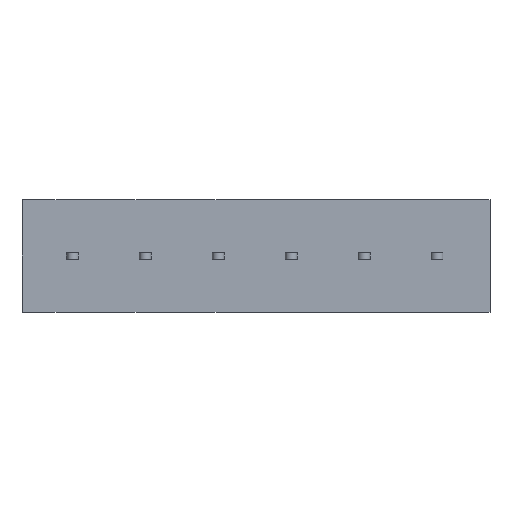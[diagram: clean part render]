
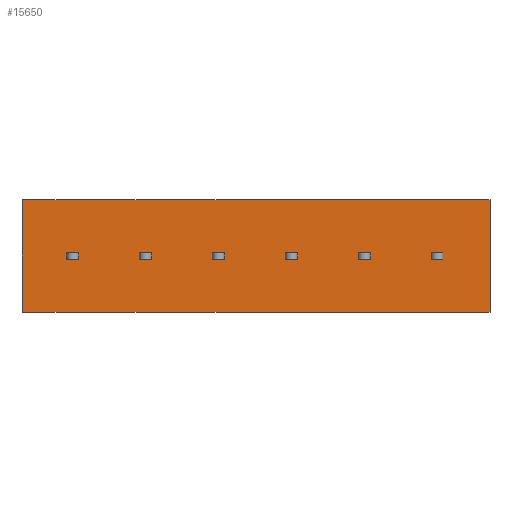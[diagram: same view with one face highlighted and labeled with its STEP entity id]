
A CAD part, front view. The second image highlights one B-rep face of the part: STEP entity #15650.
In plain terms, the highlighted planar face has unit normal (0, -1, 0).
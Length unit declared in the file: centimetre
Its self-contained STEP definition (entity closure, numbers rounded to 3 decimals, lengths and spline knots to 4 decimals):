
#720=VECTOR('',#16440,1.);
#723=VECTOR('',#16446,1.);
#737=VECTOR('',#16477,1.);
#740=VECTOR('',#16485,1.);
#1149=VECTOR('',#17036,1.);
#1256=VECTOR('',#17337,1.);
#1260=VECTOR('',#17342,1.);
#1271=VECTOR('',#17375,1.);
#1273=VECTOR('',#17378,1.);
#1391=VECTOR('',#17692,1.);
#1395=VECTOR('',#17697,1.);
#1406=VECTOR('',#17730,1.);
#1408=VECTOR('',#17733,1.);
#1526=VECTOR('',#18047,1.);
#1530=VECTOR('',#18052,1.);
#1541=VECTOR('',#18085,1.);
#1543=VECTOR('',#18088,1.);
#1661=VECTOR('',#18402,1.);
#1665=VECTOR('',#18407,1.);
#1676=VECTOR('',#18440,1.);
#1678=VECTOR('',#18443,1.);
#1796=VECTOR('',#18757,1.);
#1800=VECTOR('',#18762,1.);
#1811=VECTOR('',#18795,1.);
#1813=VECTOR('',#18798,1.);
#2314=VECTOR('',#19556,1.);
#2322=VECTOR('',#19573,1.);
#2323=VECTOR('',#19574,1.);
#2390=LINE('',#19856,#720);
#2393=LINE('',#19865,#723);
#2407=LINE('',#19902,#737);
#2410=LINE('',#19910,#740);
#2819=LINE('',#21424,#1149);
#2926=LINE('',#21812,#1256);
#2930=LINE('',#21821,#1260);
#2941=LINE('',#21856,#1271);
#2943=LINE('',#21860,#1273);
#3061=LINE('',#22261,#1391);
#3065=LINE('',#22270,#1395);
#3076=LINE('',#22305,#1406);
#3078=LINE('',#22309,#1408);
#3196=LINE('',#22710,#1526);
#3200=LINE('',#22719,#1530);
#3211=LINE('',#22754,#1541);
#3213=LINE('',#22758,#1543);
#3331=LINE('',#23159,#1661);
#3335=LINE('',#23168,#1665);
#3346=LINE('',#23203,#1676);
#3348=LINE('',#23207,#1678);
#3466=LINE('',#23608,#1796);
#3470=LINE('',#23617,#1800);
#3481=LINE('',#23652,#1811);
#3483=LINE('',#23656,#1813);
#3984=LINE('',#25409,#2314);
#3992=LINE('',#25434,#2322);
#3993=LINE('',#25435,#2323);
#4082=VERTEX_POINT('',#19857);
#4083=VERTEX_POINT('',#19858);
#4086=VERTEX_POINT('',#19866);
#4098=VERTEX_POINT('',#19903);
#4441=VERTEX_POINT('',#21425);
#4442=VERTEX_POINT('',#21426);
#4567=VERTEX_POINT('',#21813);
#4568=VERTEX_POINT('',#21814);
#4571=VERTEX_POINT('',#21822);
#4582=VERTEX_POINT('',#21857);
#4705=VERTEX_POINT('',#22262);
#4706=VERTEX_POINT('',#22263);
#4709=VERTEX_POINT('',#22271);
#4720=VERTEX_POINT('',#22306);
#4843=VERTEX_POINT('',#22711);
#4844=VERTEX_POINT('',#22712);
#4847=VERTEX_POINT('',#22720);
#4858=VERTEX_POINT('',#22755);
#4981=VERTEX_POINT('',#23160);
#4982=VERTEX_POINT('',#23161);
#4985=VERTEX_POINT('',#23169);
#4996=VERTEX_POINT('',#23204);
#5119=VERTEX_POINT('',#23609);
#5120=VERTEX_POINT('',#23610);
#5123=VERTEX_POINT('',#23618);
#5134=VERTEX_POINT('',#23653);
#5552=VERTEX_POINT('',#25410);
#5553=VERTEX_POINT('',#25411);
#6004=EDGE_CURVE('',#4082,#4083,#2390,.T.);
#6008=EDGE_CURVE('',#4083,#4086,#2393,.T.);
#6026=EDGE_CURVE('',#4086,#4098,#2407,.T.);
#6030=EDGE_CURVE('',#4098,#4082,#2410,.T.);
#6545=EDGE_CURVE('',#4441,#4442,#2819,.T.);
#6721=EDGE_CURVE('',#4567,#4568,#2926,.T.);
#6725=EDGE_CURVE('',#4571,#4567,#2930,.T.);
#6742=EDGE_CURVE('',#4582,#4571,#2941,.T.);
#6744=EDGE_CURVE('',#4568,#4582,#2943,.T.);
#6927=EDGE_CURVE('',#4705,#4706,#3061,.T.);
#6931=EDGE_CURVE('',#4709,#4705,#3065,.T.);
#6948=EDGE_CURVE('',#4720,#4709,#3076,.T.);
#6950=EDGE_CURVE('',#4706,#4720,#3078,.T.);
#7133=EDGE_CURVE('',#4843,#4844,#3196,.T.);
#7137=EDGE_CURVE('',#4847,#4843,#3200,.T.);
#7154=EDGE_CURVE('',#4858,#4847,#3211,.T.);
#7156=EDGE_CURVE('',#4844,#4858,#3213,.T.);
#7339=EDGE_CURVE('',#4981,#4982,#3331,.T.);
#7343=EDGE_CURVE('',#4985,#4981,#3335,.T.);
#7360=EDGE_CURVE('',#4996,#4985,#3346,.T.);
#7362=EDGE_CURVE('',#4982,#4996,#3348,.T.);
#7545=EDGE_CURVE('',#5119,#5120,#3466,.T.);
#7549=EDGE_CURVE('',#5123,#5119,#3470,.T.);
#7566=EDGE_CURVE('',#5134,#5123,#3481,.T.);
#7568=EDGE_CURVE('',#5120,#5134,#3483,.T.);
#8208=EDGE_CURVE('',#5552,#5553,#3984,.T.);
#8220=EDGE_CURVE('',#5553,#4441,#3992,.T.);
#8221=EDGE_CURVE('',#4442,#5552,#3993,.T.);
#12770=ORIENTED_EDGE('',*,*,#6026,.F.);
#12771=ORIENTED_EDGE('',*,*,#6008,.F.);
#12772=ORIENTED_EDGE('',*,*,#6004,.F.);
#12773=ORIENTED_EDGE('',*,*,#6030,.F.);
#12774=ORIENTED_EDGE('',*,*,#6725,.T.);
#12775=ORIENTED_EDGE('',*,*,#6721,.T.);
#12776=ORIENTED_EDGE('',*,*,#6744,.T.);
#12777=ORIENTED_EDGE('',*,*,#6742,.T.);
#12778=ORIENTED_EDGE('',*,*,#6931,.T.);
#12779=ORIENTED_EDGE('',*,*,#6927,.T.);
#12780=ORIENTED_EDGE('',*,*,#6950,.T.);
#12781=ORIENTED_EDGE('',*,*,#6948,.T.);
#12782=ORIENTED_EDGE('',*,*,#7137,.T.);
#12783=ORIENTED_EDGE('',*,*,#7133,.T.);
#12784=ORIENTED_EDGE('',*,*,#7156,.T.);
#12785=ORIENTED_EDGE('',*,*,#7154,.T.);
#12786=ORIENTED_EDGE('',*,*,#7343,.T.);
#12787=ORIENTED_EDGE('',*,*,#7339,.T.);
#12788=ORIENTED_EDGE('',*,*,#7362,.T.);
#12789=ORIENTED_EDGE('',*,*,#7360,.T.);
#12790=ORIENTED_EDGE('',*,*,#7549,.T.);
#12791=ORIENTED_EDGE('',*,*,#7545,.T.);
#12792=ORIENTED_EDGE('',*,*,#7568,.T.);
#12793=ORIENTED_EDGE('',*,*,#7566,.T.);
#12794=ORIENTED_EDGE('',*,*,#8208,.T.);
#12795=ORIENTED_EDGE('',*,*,#8220,.T.);
#12796=ORIENTED_EDGE('',*,*,#6545,.T.);
#12797=ORIENTED_EDGE('',*,*,#8221,.T.);
#13834=EDGE_LOOP('',(#12770,#12771,#12772,#12773));
#13835=EDGE_LOOP('',(#12774,#12775,#12776,#12777));
#13836=EDGE_LOOP('',(#12778,#12779,#12780,#12781));
#13837=EDGE_LOOP('',(#12782,#12783,#12784,#12785));
#13838=EDGE_LOOP('',(#12786,#12787,#12788,#12789));
#13839=EDGE_LOOP('',(#12790,#12791,#12792,#12793));
#13840=EDGE_LOOP('',(#12794,#12795,#12796,#12797));
#14786=FACE_BOUND('',#13834,.T.);
#14787=FACE_BOUND('',#13835,.T.);
#14788=FACE_BOUND('',#13836,.T.);
#14789=FACE_BOUND('',#13837,.T.);
#14790=FACE_BOUND('',#13838,.T.);
#14791=FACE_BOUND('',#13839,.T.);
#14792=FACE_BOUND('',#13840,.T.);
#15650=ADVANCED_FACE('',(#14786,#14787,#14788,#14789,#14790,#14791,#14792),
#16234,.T.);
#16234=PLANE('',#26584);
#16440=DIRECTION('',(-1.,0.,0.));
#16446=DIRECTION('',(0.,0.,-1.));
#16477=DIRECTION('',(1.,0.,0.));
#16485=DIRECTION('',(0.,0.,1.));
#17036=DIRECTION('',(0.,0.,1.));
#17337=DIRECTION('',(0.,0.,1.));
#17342=DIRECTION('',(-1.,0.,0.));
#17375=DIRECTION('',(0.,0.,-1.));
#17378=DIRECTION('',(1.,0.,0.));
#17692=DIRECTION('',(0.,0.,1.));
#17697=DIRECTION('',(-1.,0.,0.));
#17730=DIRECTION('',(0.,0.,-1.));
#17733=DIRECTION('',(1.,0.,0.));
#18047=DIRECTION('',(0.,0.,1.));
#18052=DIRECTION('',(-1.,0.,0.));
#18085=DIRECTION('',(0.,0.,-1.));
#18088=DIRECTION('',(1.,0.,0.));
#18402=DIRECTION('',(0.,0.,1.));
#18407=DIRECTION('',(-1.,0.,0.));
#18440=DIRECTION('',(0.,0.,-1.));
#18443=DIRECTION('',(1.,0.,0.));
#18757=DIRECTION('',(0.,0.,1.));
#18762=DIRECTION('',(-1.,0.,0.));
#18795=DIRECTION('',(0.,0.,-1.));
#18798=DIRECTION('',(1.,0.,0.));
#19556=DIRECTION('',(0.,0.,-1.));
#19572=DIRECTION('',(0.,-1.,0.));
#19573=DIRECTION('',(1.,0.,0.));
#19574=DIRECTION('',(-1.,0.,0.));
#19856=CARTESIAN_POINT('',(-0.685,0.,0.05));
#19857=CARTESIAN_POINT('',(-0.38,0.,0.05));
#19858=CARTESIAN_POINT('',(-0.56,0.,0.05));
#19865=CARTESIAN_POINT('',(-0.56,0.,-0.175));
#19866=CARTESIAN_POINT('',(-0.56,0.,-0.05));
#19902=CARTESIAN_POINT('',(-0.685,0.,-0.05));
#19903=CARTESIAN_POINT('',(-0.38,0.,-0.05));
#19910=CARTESIAN_POINT('',(-0.38,0.,-0.175));
#21424=CARTESIAN_POINT('',(5.83,0.,0.85));
#21425=CARTESIAN_POINT('',(5.83,0.,-0.85));
#21426=CARTESIAN_POINT('',(5.83,0.,0.85));
#21812=CARTESIAN_POINT('',(4.94,0.,-0.175));
#21813=CARTESIAN_POINT('',(4.94,0.,-0.05));
#21814=CARTESIAN_POINT('',(4.94,0.,0.05));
#21821=CARTESIAN_POINT('',(2.515,0.,-0.05));
#21822=CARTESIAN_POINT('',(5.12,0.,-0.05));
#21856=CARTESIAN_POINT('',(5.12,0.,-0.175));
#21857=CARTESIAN_POINT('',(5.12,0.,0.05));
#21860=CARTESIAN_POINT('',(2.515,0.,0.05));
#22261=CARTESIAN_POINT('',(3.84,0.,-0.175));
#22262=CARTESIAN_POINT('',(3.84,0.,-0.05));
#22263=CARTESIAN_POINT('',(3.84,0.,0.05));
#22270=CARTESIAN_POINT('',(1.965,0.,-0.05));
#22271=CARTESIAN_POINT('',(4.02,0.,-0.05));
#22305=CARTESIAN_POINT('',(4.02,0.,-0.175));
#22306=CARTESIAN_POINT('',(4.02,0.,0.05));
#22309=CARTESIAN_POINT('',(1.965,0.,0.05));
#22710=CARTESIAN_POINT('',(2.74,0.,-0.175));
#22711=CARTESIAN_POINT('',(2.74,0.,-0.05));
#22712=CARTESIAN_POINT('',(2.74,0.,0.05));
#22719=CARTESIAN_POINT('',(1.415,0.,-0.05));
#22720=CARTESIAN_POINT('',(2.92,0.,-0.05));
#22754=CARTESIAN_POINT('',(2.92,0.,-0.175));
#22755=CARTESIAN_POINT('',(2.92,0.,0.05));
#22758=CARTESIAN_POINT('',(1.415,0.,0.05));
#23159=CARTESIAN_POINT('',(1.64,0.,-0.175));
#23160=CARTESIAN_POINT('',(1.64,0.,-0.05));
#23161=CARTESIAN_POINT('',(1.64,0.,0.05));
#23168=CARTESIAN_POINT('',(0.865,0.,-0.05));
#23169=CARTESIAN_POINT('',(1.82,0.,-0.05));
#23203=CARTESIAN_POINT('',(1.82,0.,-0.175));
#23204=CARTESIAN_POINT('',(1.82,0.,0.05));
#23207=CARTESIAN_POINT('',(0.865,0.,0.05));
#23608=CARTESIAN_POINT('',(0.54,0.,-0.175));
#23609=CARTESIAN_POINT('',(0.54,0.,-0.05));
#23610=CARTESIAN_POINT('',(0.54,0.,0.05));
#23617=CARTESIAN_POINT('',(0.315,0.,-0.05));
#23618=CARTESIAN_POINT('',(0.72,0.,-0.05));
#23652=CARTESIAN_POINT('',(0.72,0.,-0.175));
#23653=CARTESIAN_POINT('',(0.72,0.,0.05));
#23656=CARTESIAN_POINT('',(0.315,0.,0.05));
#25409=CARTESIAN_POINT('',(-1.23,0.,-0.85));
#25410=CARTESIAN_POINT('',(-1.23,0.,0.85));
#25411=CARTESIAN_POINT('',(-1.23,0.,-0.85));
#25433=CARTESIAN_POINT('',(-1.1,0.,0.));
#25434=CARTESIAN_POINT('',(-1.1,0.,-0.85));
#25435=CARTESIAN_POINT('',(-1.1,0.,0.85));
#26584=AXIS2_PLACEMENT_3D('',#25433,#19572,$);
